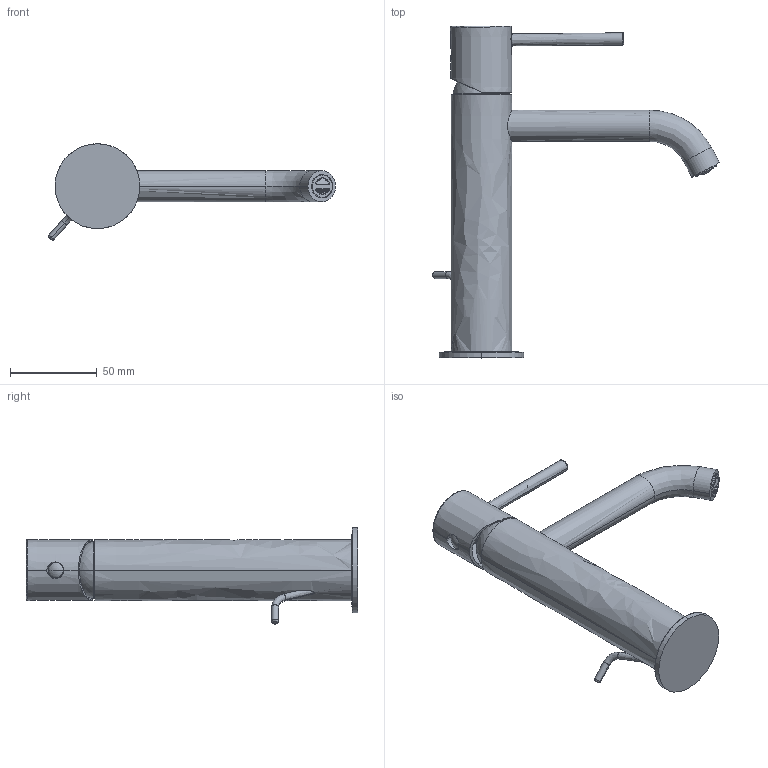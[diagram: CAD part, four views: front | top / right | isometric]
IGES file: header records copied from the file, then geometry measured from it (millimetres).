
Start section:  PTC IGES file: 12454.igs
Global section: file name: 12454.igs; native system: Creo Parametric by PTC Inc.; preprocessor: 2022014; author: carloff; organization: Unknown; date: 20231005.104022; units: millimetre
Bounding box: 165.14 x 190.95 x 55.46 mm (x, y, z)
Surface area: 43394.5 mm2 (no closed solid volume)
Topology: 0 solids, 0 shells, 490 faces, 2722 edges, 2712 vertices
Faces by surface type: revolution 277, bspline 213
